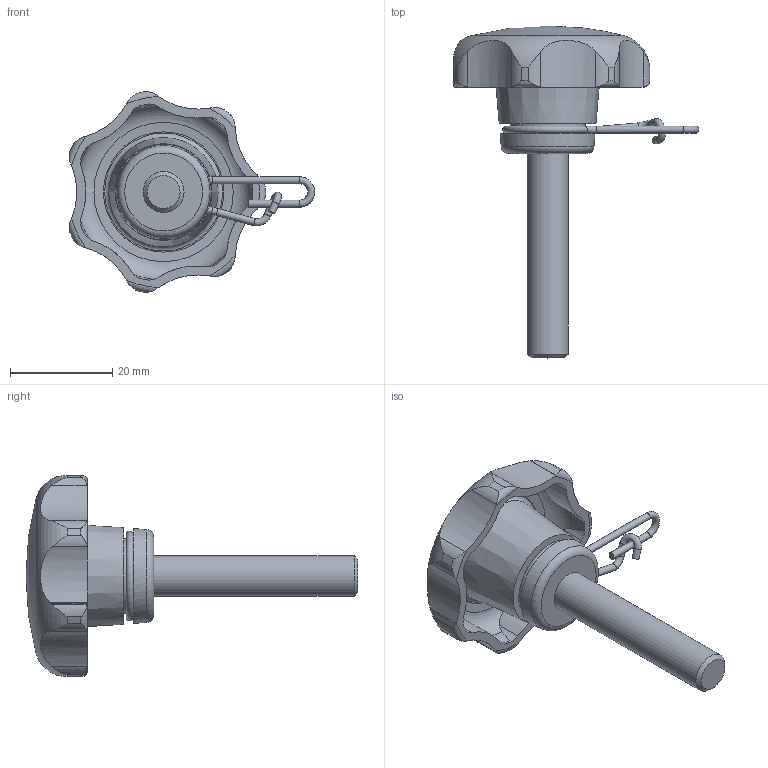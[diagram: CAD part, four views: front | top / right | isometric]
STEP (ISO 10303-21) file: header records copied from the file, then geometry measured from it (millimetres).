
FILE_DESCRIPTION( ( 'STEP AP203' ), '1' );
FILE_NAME( 'C:/Temp/Ganter_Step_05_03_2020/data/2_2/gn_6336_13/gn_6336_13_2/Star knob GN 6336.13-40-M8-40-A.stp', '2020-03-05T12:11:12', ( 'License CC BY-ND 4.0' ), ( 'CADENAS' ), ' ', 'PARTsolutions', ' ' );
FILE_SCHEMA( ( 'CONFIG_CONTROL_DESIGN' ) );
Length unit declared in the file: millimetre
Products named in the file (1): _Star knob GN 6336.13-40-M8-40-A
Bounding box: 48.07 x 65 x 39.31 mm (x, y, z)
Volume: 13243.7 mm3; surface area: 6562.6 mm2
Topology: 1 solids, 1 shells, 114 faces, 310 edges, 202 vertices
Faces by surface type: cylinder 73, torus 18, cone 11, plane 11, sphere 1
Full cylindrical faces by diameter (mm): 1.4 x5, 8 x1, 14.7 x1
Entity records: 4226 total; most frequent: CARTESIAN_POINT 1527, ORIENTED_EDGE 564, DIRECTION 516, EDGE_CURVE 282, AXIS2_PLACEMENT_3D 222, VERTEX_POINT 199, EDGE_LOOP 140, FACE_OUTER_BOUND 131
